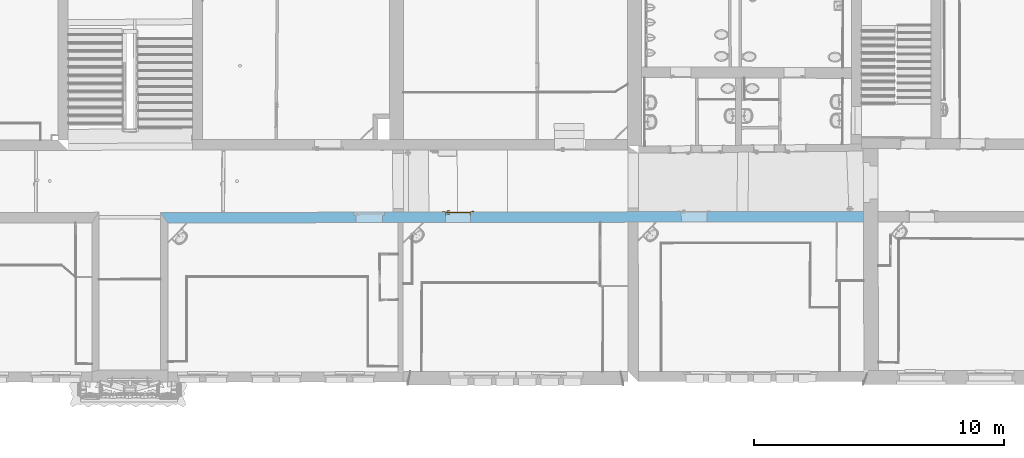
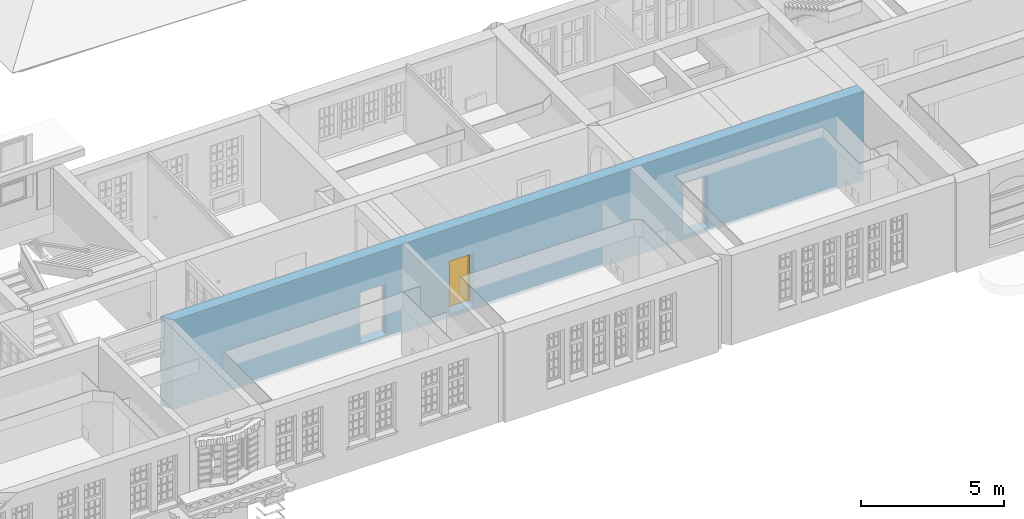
# One storey, part 77 of 158: 1 door, 3 openings, plus 1 element that does not belong to this part.
"""IFC2X3 building model written with IfcOpenShell, lengths in metres."""

from ifc_helpers import new_model, entity, si_unit, converted_unit, derived_unit, money_unit, direction, frame, origin_with_axes, origin_2d_with_axis, place, context, subcontext, project, spatial, polyline, rectangle, outline, extrude, open_shell, faceted_brep, surface_model, material, layer, layer_set, layer_usage, type_object, element, fill, save


model = new_model("IFC2X3")

# Units and contexts
model_context = context("Model", 3, precision=1e-05, world=origin_with_axes(), true_north=direction((0.0, 1.0)))
body_context = subcontext(model_context, "Body", "Model", "MODEL_VIEW")
ifc_project = project(units=[si_unit("LENGTHUNIT", "METRE"), si_unit("AREAUNIT", "SQUARE_METRE"), si_unit("VOLUMEUNIT", "CUBIC_METRE"), converted_unit("PLANEANGLEUNIT", "DEGREE", entity("IfcPlaneAngleMeasure", 0.0174532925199), si_unit("PLANEANGLEUNIT", "RADIAN"), dimensions=[0, 0, 0, 0, 0, 0, 0]), money_unit("EUR"), converted_unit("TIMEUNIT", "Year", entity("IfcTimeMeasure", 31556926.0), si_unit("TIMEUNIT", "SECOND"), dimensions=[0, 0, 1, 0, 0, 0, 0]), si_unit("MASSUNIT", "GRAM", prefix="KILO"), si_unit("THERMODYNAMICTEMPERATUREUNIT", "DEGREE_CELSIUS"), si_unit("LUMINOUSINTENSITYUNIT", "LUMEN"), si_unit("ENERGYUNIT", "JOULE", prefix="MEGA"), derived_unit("THERMALCONDUCTANCEUNIT", [(si_unit("POWERUNIT", "WATT"), 1), (si_unit("LENGTHUNIT", "METRE"), -1), (si_unit("THERMODYNAMICTEMPERATUREUNIT", "KELVIN"), -1)]), derived_unit("SPECIFICHEATCAPACITYUNIT", [(si_unit("ENERGYUNIT", "JOULE"), 1), (si_unit("MASSUNIT", "GRAM", prefix="KILO"), -1), (si_unit("THERMODYNAMICTEMPERATUREUNIT", "KELVIN"), -1)]), derived_unit("MASSDENSITYUNIT", [(si_unit("MASSUNIT", "GRAM", prefix="KILO"), 1), (si_unit("VOLUMEUNIT", "CUBIC_METRE"), -1)])], contexts=[model_context])

# Site, building, storey
site_placement = place(None, origin_with_axes())
site = spatial("IfcSite", under=ifc_project, at=site_placement, Name="Gelände", CompositionType="ELEMENT")
building_placement = place(site_placement, origin_with_axes())
building = spatial("IfcBuilding", under=site, at=building_placement, Name="Gebäude", CompositionType="ELEMENT")
storey_placement = place(building_placement, origin_with_axes())
storey = spatial("IfcBuildingStorey", under=building, at=storey_placement, Name="ERDGESCHOSS", CompositionType="ELEMENT", Elevation=0.0)

# Wall, openings, door
ifc_material = material(Name="05_ALLGEMEIN - TRAGENDE BAUTEILE")
ifc_layer = layer(ifc_material, 0.42, ventilated="UNKNOWN")
ifc_layer_set = layer_set([ifc_layer], Name="05_ALLGEMEIN - TRAGENDE BAUTEILE 0.42")
ifc_layer_usage = layer_usage(ifc_layer_set, "AXIS2", "NEGATIVE", 0.42)
wall_type = type_object("IfcWallType", Name="05_ALLGEMEIN - TRAGENDE BAUTEILE 420", PredefinedType="ELEMENTEDWALL")
wall_placement = place(storey_placement, frame((21.9714720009, 16.8199423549, -0.21), z_axis=(0.0, 0.0, 1.0), x_axis=(-0.999998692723, -0.00161695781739, 0.0)))
wall = element("IfcWallStandardCase", 1, at=wall_placement, inside=storey, type_object=wall_type, material=ifc_layer_usage, Name="Wand-036", ObjectType="ELEMENTEDWALL", context=body_context, shape_type="SweptSolid", body=[
    extrude(outline(polyline([(0.0, 0.0), (28.1196278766, 0.0), (27.8302322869, 0.42), (-0.000643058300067, 0.42), (0.0, 0.0)])), origin_with_axes(), (0.0, 0.0, 1.0), 3.81),
])
opening_1_placement = place(wall_placement, frame((16.2172151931, 0.0, 0.166246), z_axis=(0.0, 0.0, 1.0), x_axis=(1.0, 0.0, 0.0)))
opening_1 = element("IfcOpeningElement", 2, at=opening_1_placement, cuts=wall, Name="Tür-022", context=body_context, shape_type="SweptSolid", body=[
    extrude(rectangle(XDim=1.00454069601, YDim=2.250558, at=origin_2d_with_axis()), frame((0.0, -0.42, 1.125279), z_axis=(0.0, 1.0, 0.0), x_axis=(-1.0, 0.0, 0.0)), (0.0, 0.0, 1.0), 1.26),
])
opening_2_placement = place(wall_placement, frame((6.77188532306, 0.0, 0.188019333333), z_axis=(0.0, 0.0, 1.0), x_axis=(1.0, 0.0, 0.0)))
element("IfcOpeningElement", 3, at=opening_2_placement, cuts=wall, Name="Tür-022", context=body_context, shape_type="SweptSolid", body=[
    extrude(rectangle(XDim=1.03194822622, YDim=2.22878466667, at=origin_2d_with_axis()), frame((0.0, -0.42, 1.11439233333), z_axis=(0.0, 1.0, 0.0), x_axis=(-1.0, 0.0, 0.0)), (0.0, 0.0, 1.0), 1.26),
])
opening_3_placement = place(wall_placement, frame((19.7783409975, 0.0, 0.156249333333), z_axis=(0.0, 0.0, 1.0), x_axis=(1.0, 0.0, 0.0)))
element("IfcOpeningElement", 4, at=opening_3_placement, cuts=wall, Name="Tür-022", context=body_context, shape_type="SweptSolid", body=[
    extrude(rectangle(XDim=1.05907517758, YDim=2.193751, at=origin_2d_with_axis()), frame((0.0, 0.14, 1.0968755), z_axis=(0.0, -1.0, 0.0), x_axis=(-1.0, 0.0, 0.0)), (0.0, 0.0, -1.0), 0.7),
    extrude(rectangle(XDim=1.23907517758, YDim=2.283751, at=origin_2d_with_axis()), frame((0.0, 0.05, 1.1418755), z_axis=(0.0, 1.0, 0.0), x_axis=(-1.0, 0.0, 0.0)), (0.0, 0.0, 1.0), 0.09),
    extrude(rectangle(XDim=1.23907517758, YDim=2.283751, at=origin_2d_with_axis()), frame((0.0, 0.05, 1.1418755), z_axis=(0.0, 1.0, 0.0), x_axis=(-1.0, 0.0, 0.0)), (0.0, 0.0, -1.0), 0.47),
])
door_style = type_object("IfcDoorStyle", Name="Blockrahmentür 1-Fl 25", ConstructionType="NOTDEFINED", OperationType="SINGLE_SWING_RIGHT", ParameterTakesPrecedence=False, Sizeable=False)
door_placement = place(opening_1_placement, frame((0.487270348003, 0.0, 0.0), z_axis=(0.0, 0.0, 1.0), x_axis=(-1.0, 0.0, 0.0)))
door = element("IfcDoor", 5, at=door_placement, inside=storey, type_object=door_style, Name="Tür-022", ObjectType="NOTDEFINED", OverallHeight=2.25056, OverallWidth=1.00454, context=body_context, shape_type="SurfaceModel", body=[
    faceted_brep([(0.989540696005, -0.14, 0.0), (0.989540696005, -0.035, 0.0), (0.989540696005, -0.035, 2.250558), (0.989540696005, -0.14, 2.250558), (0.974540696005, -0.14, 0.0), (0.974540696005, -0.035, 0.0), (0.974540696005, -0.035, 2.235558), (0.602370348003, -0.035, 2.235558), (0.487370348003, -0.035, 2.235558), (0.0, -0.035, 2.235558), (0.0, -0.035, 0.0), (-0.015, -0.035, 0.0), (-0.015, -0.035, 2.250558), (-0.015, -0.14, 2.250558), (-0.015, -0.14, 0.0), (0.0, -0.14, 0.0), (0.0, -0.14, 2.235558), (0.487370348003, -0.14, 2.235558), (0.602370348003, -0.14, 2.235558), (0.974540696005, -0.14, 2.235558)], [[[0, 1, 2, 3]], [[4, 5, 1, 0]], [[1, 5, 6, 7, 8, 9, 10, 11, 12, 2]], [[3, 2, 12, 13]], [[0, 3, 13, 14, 15, 16, 17, 18, 19, 4]], [[19, 6, 5, 4]], [[18, 7, 6, 19]], [[17, 8, 7, 18]], [[16, 9, 8, 17]], [[15, 10, 9, 16]], [[14, 11, 10, 15]], [[13, 12, 11, 14]]]),
    surface_model("IfcShellBasedSurfaceModel", [(0.989540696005, -0.035, 0.0), (0.989540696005, 0.03, 0.0), (0.989540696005, 0.03, 2.250558), (0.989540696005, -0.035, 2.250558), (0.989540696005, -0.035, 2.250558), (0.989540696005, 0.03, 2.250558), (0.587370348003, 0.03, 2.250558), (0.502370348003, 0.03, 2.250558), (-0.015, 0.03, 2.250558), (-0.015, 0.03, 2.250558), (-0.015, -0.035, 2.250558), (0.502370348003, -0.035, 2.250558), (0.587370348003, -0.035, 2.250558), (-0.015, -0.035, 2.250558), (-0.015, -0.035, 0.0), (-0.015, 0.03, 0.0)], [open_shell([[[0, 1, 2, 3]], [[4, 5, 1, 0]], [[6, 7, 8, 2]], [[3, 2, 9, 10]], [[10, 11, 12, 4]], [[12, 6, 5, 4]], [[11, 7, 6, 12]], [[13, 8, 7, 11]], [[14, 15, 8, 13]], [[10, 9, 15, 14]]])]),
    faceted_brep([(1.13454069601, 0.0, 0.0), (1.13454069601, 0.03, 0.0), (1.13454069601, 0.03, 2.395558), (1.13454069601, 0.0, 2.395558), (0.989540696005, 0.0, 0.0), (0.989540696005, 0.03, 0.0), (0.989540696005, 0.03, 2.250558), (-0.015, 0.03, 2.250558), (-0.015, 0.03, 0.0), (-0.16, 0.03, 0.0), (-0.16, 0.03, 2.395558), (-0.16, 0.0, 2.395558), (-0.16, 0.0, 0.0), (-0.015, 0.0, 0.0), (-0.015, 0.0, 2.250558), (0.989540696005, 0.0, 2.250558)], [[[0, 1, 2, 3]], [[4, 5, 1, 0]], [[1, 5, 6, 7, 8, 9, 10, 2]], [[3, 2, 10, 11]], [[0, 3, 11, 12, 13, 14, 15, 4]], [[15, 6, 5, 4]], [[14, 7, 6, 15]], [[13, 8, 7, 14]], [[12, 9, 8, 13]], [[11, 10, 9, 12]]]),
    faceted_brep([(0.989540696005, 0.002, 0.0), (-0.015, 0.002, 0.0), (-0.015, 0.002, 2.250558), (0.989540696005, 0.002, 2.250558), (0.989540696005, -0.035, 0.0), (-0.015, -0.035, 0.0), (-0.015, -0.035, 2.250558), (0.989540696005, -0.035, 2.250558)], [[[0, 1, 2, 3]], [[1, 0, 4, 5]], [[2, 1, 5, 6]], [[3, 2, 6, 7]], [[0, 3, 7, 4]], [[5, 4, 7, 6]]]),
    faceted_brep([(0.0402977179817, -0.075, 1.05647213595), (0.045, -0.075, 1.058), (0.045, -0.055, 1.058), (0.0402977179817, -0.055, 1.05647213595), (0.0373915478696, -0.075, 1.05247213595), (0.0373915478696, -0.075, 1.04752786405), (0.0402977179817, -0.075, 1.04352786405), (0.045, -0.075, 1.042), (0.0497022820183, -0.075, 1.04352786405), (0.0526084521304, -0.075, 1.04752786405), (0.0526084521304, -0.075, 1.05247213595), (0.0497022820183, -0.075, 1.05647213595), (0.0497022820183, -0.055, 1.05647213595), (0.045, -0.053, 1.06), (0.0391221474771, -0.053, 1.05809016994), (0.0373915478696, -0.055, 1.05247213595), (0.0373915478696, -0.055, 1.04752786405), (0.0402977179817, -0.055, 1.04352786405), (0.045, -0.055, 1.042), (0.0497022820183, -0.055, 1.04352786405), (0.0526084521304, -0.055, 1.04752786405), (0.0526084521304, -0.055, 1.05247213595), (0.0508778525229, -0.053, 1.05809016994), (0.045, -0.045, 1.06), (0.0391221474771, -0.045, 1.05809016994), (0.035489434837, -0.053, 1.05309016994), (0.035489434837, -0.053, 1.04690983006), (0.0391221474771, -0.053, 1.04190983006), (0.045, -0.053, 1.04), (0.0508778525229, -0.053, 1.04190983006), (0.054510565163, -0.053, 1.04690983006), (0.054510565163, -0.053, 1.05309016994), (0.0508778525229, -0.045, 1.05809016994), (0.054510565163, -0.045, 1.05309016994), (0.054510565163, -0.045, 1.04690983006), (0.0508778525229, -0.045, 1.04190983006), (0.045, -0.045, 1.04), (0.0391221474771, -0.045, 1.04190983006), (0.035489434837, -0.045, 1.04690983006), (0.035489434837, -0.045, 1.05309016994)], [[[0, 1, 2, 3]], [[1, 0, 4, 5, 6, 7, 8, 9, 10, 11]], [[1, 11, 12, 2]], [[3, 2, 13, 14]], [[4, 0, 3, 15]], [[5, 4, 15, 16]], [[6, 5, 16, 17]], [[7, 6, 17, 18]], [[8, 7, 18, 19]], [[9, 8, 19, 20]], [[10, 9, 20, 21]], [[11, 10, 21, 12]], [[2, 12, 22, 13]], [[14, 13, 23, 24]], [[15, 3, 14, 25]], [[16, 15, 25, 26]], [[17, 16, 26, 27]], [[18, 17, 27, 28]], [[19, 18, 28, 29]], [[20, 19, 29, 30]], [[21, 20, 30, 31]], [[12, 21, 31, 22]], [[13, 22, 32, 23]], [[23, 32, 33, 34, 35, 36, 37, 38, 39, 24]], [[25, 14, 24, 39]], [[26, 25, 39, 38]], [[27, 26, 38, 37]], [[28, 27, 37, 36]], [[29, 28, 36, 35]], [[30, 29, 35, 34]], [[31, 30, 34, 33]], [[22, 31, 33, 32]]]),
    faceted_brep([(0.0571883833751, -0.045, 1.11759695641), (0.0494435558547, -0.045, 1.12195567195), (0.0405564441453, -0.045, 1.12195567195), (0.0328116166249, -0.045, 1.11759695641), (0.0282, -0.045, 1.11), (0.0225, -0.045, 1.11), (0.0225, -0.045, 0.89), (0.0282, -0.045, 0.89), (0.0328116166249, -0.045, 0.882403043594), (0.0405564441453, -0.045, 0.878044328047), (0.0494435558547, -0.045, 0.878044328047), (0.0571883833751, -0.045, 0.882403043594), (0.0618, -0.045, 0.89), (0.0675, -0.045, 0.89), (0.0675, -0.045, 1.11), (0.0618, -0.045, 1.11), (0.045, -0.045, 0.967425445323), (0.050375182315, -0.045, 0.965143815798), (0.0524678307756, -0.045, 0.959692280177), (0.05, -0.045, 0.9544), (0.05, -0.045, 0.9375), (0.0485355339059, -0.045, 0.933964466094), (0.045, -0.045, 0.9325), (0.0414644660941, -0.045, 0.933964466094), (0.04, -0.045, 0.9375), (0.04, -0.045, 0.9544), (0.0375321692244, -0.045, 0.959692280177), (0.039624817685, -0.045, 0.965143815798), (0.0571883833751, -0.035, 1.11759695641), (0.0494435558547, -0.035, 1.12195567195), (0.0405564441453, -0.035, 1.12195567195), (0.0328116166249, -0.035, 1.11759695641), (0.0282, -0.035, 1.11), (0.0225, -0.035, 1.11), (0.0225, -0.035, 0.89), (0.0282, -0.035, 0.89), (0.0328116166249, -0.035, 0.882403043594), (0.0405564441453, -0.035, 0.878044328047), (0.0494435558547, -0.035, 0.878044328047), (0.0571883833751, -0.035, 0.882403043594), (0.0618, -0.035, 0.89), (0.0675, -0.035, 0.89), (0.0675, -0.035, 1.11), (0.0618, -0.035, 1.11), (0.045, -0.035, 0.967425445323), (0.050375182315, -0.035, 0.965143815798), (0.0524678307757, -0.035, 0.959692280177), (0.05, -0.035, 0.9544), (0.05, -0.035, 0.9375), (0.0485355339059, -0.035, 0.933964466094), (0.045, -0.035, 0.9325), (0.0414644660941, -0.035, 0.933964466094), (0.04, -0.035, 0.9375), (0.04, -0.035, 0.9544), (0.0375321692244, -0.035, 0.959692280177), (0.039624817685, -0.035, 0.965143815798)], [[[0, 1, 2, 3, 4, 5, 6, 7, 8, 9, 10, 11, 12, 13, 14, 15], [16, 17, 18, 19, 20, 21, 22, 23, 24, 25, 26, 27]], [[1, 0, 28, 29]], [[2, 1, 29, 30]], [[3, 2, 30, 31]], [[4, 3, 31, 32]], [[5, 4, 32, 33]], [[6, 5, 33, 34]], [[7, 6, 34, 35]], [[8, 7, 35, 36]], [[9, 8, 36, 37]], [[10, 9, 37, 38]], [[11, 10, 38, 39]], [[12, 11, 39, 40]], [[13, 12, 40, 41]], [[14, 13, 41, 42]], [[15, 14, 42, 43]], [[0, 15, 43, 28]], [[17, 16, 44, 45]], [[18, 17, 45, 46]], [[19, 18, 46, 47]], [[19, 47, 48, 20]], [[20, 48, 49, 21]], [[21, 49, 50, 22]], [[22, 50, 51, 23]], [[23, 51, 52, 24]], [[53, 25, 24, 52]], [[26, 25, 53, 54]], [[27, 26, 54, 55]], [[16, 27, 55, 44]], [[40, 39, 38, 37, 36, 35, 34, 33, 32, 31, 30, 29, 28, 43, 42, 41], [54, 53, 52, 51, 50, 49, 48, 47, 46, 45, 44, 55]]]),
    faceted_brep([(0.159253, -0.075, 1.057158), (0.159253, -0.09, 1.057158), (0.159254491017, -0.09, 1.05719388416), (0.159254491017, -0.075, 1.05719388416), (0.132225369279, -0.075, 1.06432652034), (0.132225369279, -0.09, 1.06432652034), (0.104397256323, -0.09, 1.06706086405), (0.0764912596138, -0.09, 1.06529002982), (0.049232, -0.09, 1.05906), (0.0428294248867, -0.09, 1.05976125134), (0.0373273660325, -0.09, 1.05641280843), (0.0350084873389, -0.09, 1.05040385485), (0.0368348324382, -0.09, 1.04422735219), (0.0420486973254, -0.09, 1.04044577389), (0.0484869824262, -0.09, 1.04062800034), (0.0534786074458, -0.09, 1.04469843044), (0.053458, -0.09, 1.044666), (0.0787467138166, -0.09, 1.05019878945), (0.104589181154, -0.09, 1.05171460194), (0.130351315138, -0.09, 1.04917624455), (0.155401, -0.09, 1.042646), (0.160944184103, -0.09, 1.04356849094), (0.16430572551, -0.09, 1.04807159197), (0.163614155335, -0.09, 1.05364829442), (0.163614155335, -0.075, 1.05364829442), (0.16430572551, -0.075, 1.04807159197), (0.160944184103, -0.075, 1.04356849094), (0.155401, -0.075, 1.042646), (0.130351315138, -0.075, 1.04917624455), (0.104589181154, -0.075, 1.05171460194), (0.0787467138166, -0.075, 1.05019878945), (0.053458, -0.075, 1.044666), (0.0534786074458, -0.075, 1.04469843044), (0.0484869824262, -0.075, 1.04062800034), (0.0420486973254, -0.075, 1.04044577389), (0.0368348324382, -0.075, 1.04422735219), (0.0350084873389, -0.075, 1.05040385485), (0.0373273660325, -0.075, 1.05641280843), (0.0428294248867, -0.075, 1.05976125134), (0.049232, -0.075, 1.05906), (0.0764912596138, -0.075, 1.06529002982), (0.104397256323, -0.075, 1.06706086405)], [[[0, 1, 2, 3]], [[4, 5, 1, 0]], [[1, 5, 6, 7, 8, 9, 10, 11, 12, 13, 14, 15, 16, 17, 18, 19, 20, 21, 22, 23, 2]], [[3, 2, 23, 24]], [[0, 3, 24, 25, 26, 27, 28, 29, 30, 31, 32, 33, 34, 35, 36, 37, 38, 39, 40, 41, 4]], [[41, 6, 5, 4]], [[40, 7, 6, 41]], [[39, 8, 7, 40]], [[38, 9, 8, 39]], [[37, 10, 9, 38]], [[36, 11, 10, 37]], [[35, 12, 11, 36]], [[34, 13, 12, 35]], [[33, 14, 13, 34]], [[32, 15, 14, 33]], [[31, 16, 15, 32]], [[30, 17, 16, 31]], [[29, 18, 17, 30]], [[28, 19, 18, 29]], [[27, 20, 19, 28]], [[26, 21, 20, 27]], [[25, 22, 21, 26]], [[24, 23, 22, 25]]]),
    faceted_brep([(0.0402977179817, 0.042, 1.05647213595), (0.0402977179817, 0.022, 1.05647213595), (0.045, 0.022, 1.058), (0.045, 0.042, 1.058), (0.0373915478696, 0.042, 1.05247213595), (0.0373915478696, 0.022, 1.05247213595), (0.0391221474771, 0.02, 1.05809016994), (0.045, 0.02, 1.06), (0.0497022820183, 0.022, 1.05647213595), (0.0497022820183, 0.042, 1.05647213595), (0.0526084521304, 0.042, 1.05247213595), (0.0526084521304, 0.042, 1.04752786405), (0.0497022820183, 0.042, 1.04352786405), (0.045, 0.042, 1.042), (0.0402977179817, 0.042, 1.04352786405), (0.0373915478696, 0.042, 1.04752786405), (0.0373915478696, 0.022, 1.04752786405), (0.0354894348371, 0.02, 1.05309016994), (0.0391221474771, 0.012, 1.05809016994), (0.045, 0.012, 1.06), (0.0508778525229, 0.02, 1.05809016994), (0.0526084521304, 0.022, 1.05247213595), (0.0526084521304, 0.022, 1.04752786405), (0.0497022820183, 0.022, 1.04352786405), (0.045, 0.022, 1.042), (0.0402977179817, 0.022, 1.04352786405), (0.0354894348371, 0.02, 1.04690983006), (0.035489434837, 0.012, 1.05309016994), (0.035489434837, 0.012, 1.04690983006), (0.0391221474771, 0.012, 1.04190983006), (0.045, 0.012, 1.04), (0.0508778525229, 0.012, 1.04190983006), (0.054510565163, 0.012, 1.04690983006), (0.054510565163, 0.012, 1.05309016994), (0.0508778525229, 0.012, 1.05809016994), (0.054510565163, 0.02, 1.05309016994), (0.054510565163, 0.02, 1.04690983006), (0.0508778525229, 0.02, 1.04190983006), (0.045, 0.02, 1.04), (0.0391221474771, 0.02, 1.04190983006)], [[[0, 1, 2, 3]], [[4, 5, 1, 0]], [[1, 6, 7, 2]], [[3, 2, 8, 9]], [[3, 9, 10, 11, 12, 13, 14, 15, 4, 0]], [[15, 16, 5, 4]], [[5, 17, 6, 1]], [[6, 18, 19, 7]], [[2, 7, 20, 8]], [[9, 8, 21, 10]], [[10, 21, 22, 11]], [[11, 22, 23, 12]], [[12, 23, 24, 13]], [[13, 24, 25, 14]], [[14, 25, 16, 15]], [[16, 26, 17, 5]], [[17, 27, 18, 6]], [[19, 18, 27, 28, 29, 30, 31, 32, 33, 34]], [[7, 19, 34, 20]], [[8, 20, 35, 21]], [[21, 35, 36, 22]], [[22, 36, 37, 23]], [[23, 37, 38, 24]], [[24, 38, 39, 25]], [[25, 39, 26, 16]], [[26, 28, 27, 17]], [[39, 29, 28, 26]], [[38, 30, 29, 39]], [[37, 31, 30, 38]], [[36, 32, 31, 37]], [[35, 33, 32, 36]], [[20, 34, 33, 35]]]),
    faceted_brep([(0.0571883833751, 0.002, 1.11759695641), (0.0494435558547, 0.002, 1.12195567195), (0.0405564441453, 0.002, 1.12195567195), (0.0328116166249, 0.002, 1.11759695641), (0.0282, 0.002, 1.11), (0.0225, 0.002, 1.11), (0.0225, 0.002, 0.89), (0.0282, 0.002, 0.89), (0.0328116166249, 0.002, 0.882403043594), (0.0405564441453, 0.002, 0.878044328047), (0.0494435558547, 0.002, 0.878044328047), (0.0571883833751, 0.002, 0.882403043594), (0.0618, 0.002, 0.89), (0.0675, 0.002, 0.89), (0.0675, 0.002, 1.11), (0.0618, 0.002, 1.11), (0.045, 0.002, 0.967425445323), (0.050375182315, 0.002, 0.965143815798), (0.0524678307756, 0.002, 0.959692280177), (0.05, 0.002, 0.9544), (0.05, 0.002, 0.9375), (0.0485355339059, 0.002, 0.933964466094), (0.045, 0.002, 0.9325), (0.0414644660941, 0.002, 0.933964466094), (0.04, 0.002, 0.9375), (0.04, 0.002, 0.9544), (0.0375321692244, 0.002, 0.959692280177), (0.039624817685, 0.002, 0.965143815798), (0.0494435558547, 0.012, 1.12195567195), (0.0571883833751, 0.012, 1.11759695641), (0.0405564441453, 0.012, 1.12195567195), (0.0328116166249, 0.012, 1.11759695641), (0.0282, 0.012, 1.11), (0.0225, 0.012, 1.11), (0.0225, 0.012, 0.89), (0.0282, 0.012, 0.89), (0.0328116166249, 0.012, 0.882403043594), (0.0405564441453, 0.012, 0.878044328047), (0.0494435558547, 0.012, 0.878044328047), (0.0571883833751, 0.012, 0.882403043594), (0.0618, 0.012, 0.89), (0.0675, 0.012, 0.89), (0.0675, 0.012, 1.11), (0.0618, 0.012, 1.11), (0.045, 0.012, 0.967425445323), (0.050375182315, 0.012, 0.965143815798), (0.0524678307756, 0.012, 0.959692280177), (0.05, 0.012, 0.9544), (0.05, 0.012, 0.9375), (0.0485355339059, 0.012, 0.933964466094), (0.045, 0.012, 0.9325), (0.0414644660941, 0.012, 0.933964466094), (0.04, 0.012, 0.9375), (0.04, 0.012, 0.9544), (0.0375321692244, 0.012, 0.959692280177), (0.039624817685, 0.012, 0.965143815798)], [[[0, 1, 2, 3, 4, 5, 6, 7, 8, 9, 10, 11, 12, 13, 14, 15], [16, 17, 18, 19, 20, 21, 22, 23, 24, 25, 26, 27]], [[28, 1, 0, 29]], [[30, 2, 1, 28]], [[31, 3, 2, 30]], [[32, 4, 3, 31]], [[33, 5, 4, 32]], [[34, 6, 5, 33]], [[35, 7, 6, 34]], [[36, 8, 7, 35]], [[37, 9, 8, 36]], [[38, 10, 9, 37]], [[39, 11, 10, 38]], [[40, 12, 11, 39]], [[41, 13, 12, 40]], [[42, 14, 13, 41]], [[43, 15, 14, 42]], [[29, 0, 15, 43]], [[17, 16, 44, 45]], [[18, 17, 45, 46]], [[19, 18, 46, 47]], [[19, 47, 48, 20]], [[20, 48, 49, 21]], [[21, 49, 50, 22]], [[22, 50, 51, 23]], [[23, 51, 52, 24]], [[53, 25, 24, 52]], [[26, 25, 53, 54]], [[27, 26, 54, 55]], [[16, 27, 55, 44]], [[40, 39, 38, 37, 36, 35, 34, 33, 32, 31, 30, 28, 29, 43, 42, 41], [54, 53, 52, 51, 50, 49, 48, 47, 46, 45, 44, 55]]]),
    faceted_brep([(0.159253, 0.042, 1.057158), (0.159254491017, 0.042, 1.05719388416), (0.159254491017, 0.057, 1.05719388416), (0.159253, 0.057, 1.057158), (0.132225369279, 0.042, 1.06432652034), (0.104397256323, 0.042, 1.06706086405), (0.0764912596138, 0.042, 1.06529002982), (0.049232, 0.042, 1.05906), (0.0428294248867, 0.042, 1.05976125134), (0.0373273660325, 0.042, 1.05641280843), (0.0350084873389, 0.042, 1.05040385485), (0.0368348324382, 0.042, 1.04422735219), (0.0420486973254, 0.042, 1.04044577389), (0.0484869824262, 0.042, 1.04062800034), (0.0534786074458, 0.042, 1.04469843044), (0.053458, 0.042, 1.044666), (0.0787467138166, 0.042, 1.05019878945), (0.104589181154, 0.042, 1.05171460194), (0.130351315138, 0.042, 1.04917624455), (0.155401, 0.042, 1.042646), (0.160944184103, 0.042, 1.04356849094), (0.16430572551, 0.042, 1.04807159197), (0.163614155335, 0.042, 1.05364829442), (0.163614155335, 0.057, 1.05364829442), (0.16430572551, 0.057, 1.04807159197), (0.160944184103, 0.057, 1.04356849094), (0.155401, 0.057, 1.042646), (0.130351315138, 0.057, 1.04917624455), (0.104589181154, 0.057, 1.05171460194), (0.0787467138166, 0.057, 1.05019878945), (0.053458, 0.057, 1.044666), (0.0534786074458, 0.057, 1.04469843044), (0.0484869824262, 0.057, 1.04062800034), (0.0420486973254, 0.057, 1.04044577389), (0.0368348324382, 0.057, 1.04422735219), (0.0350084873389, 0.057, 1.05040385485), (0.0373273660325, 0.057, 1.05641280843), (0.0428294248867, 0.057, 1.05976125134), (0.049232, 0.057, 1.05906), (0.0764912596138, 0.057, 1.06529002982), (0.104397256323, 0.057, 1.06706086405), (0.132225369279, 0.057, 1.06432652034)], [[[0, 1, 2, 3]], [[0, 4, 5, 6, 7, 8, 9, 10, 11, 12, 13, 14, 15, 16, 17, 18, 19, 20, 21, 22, 1]], [[1, 22, 23, 2]], [[3, 2, 23, 24, 25, 26, 27, 28, 29, 30, 31, 32, 33, 34, 35, 36, 37, 38, 39, 40, 41]], [[4, 0, 3, 41]], [[5, 4, 41, 40]], [[6, 5, 40, 39]], [[7, 6, 39, 38]], [[8, 7, 38, 37]], [[9, 8, 37, 36]], [[10, 9, 36, 35]], [[11, 10, 35, 34]], [[12, 11, 34, 33]], [[13, 12, 33, 32]], [[14, 13, 32, 31]], [[15, 14, 31, 30]], [[16, 15, 30, 29]], [[17, 16, 29, 28]], [[18, 17, 28, 27]], [[19, 18, 27, 26]], [[20, 19, 26, 25]], [[21, 20, 25, 24]], [[22, 21, 24, 23]]]),
])
fill(opening_1, door)

save(model, "model.ifc")
